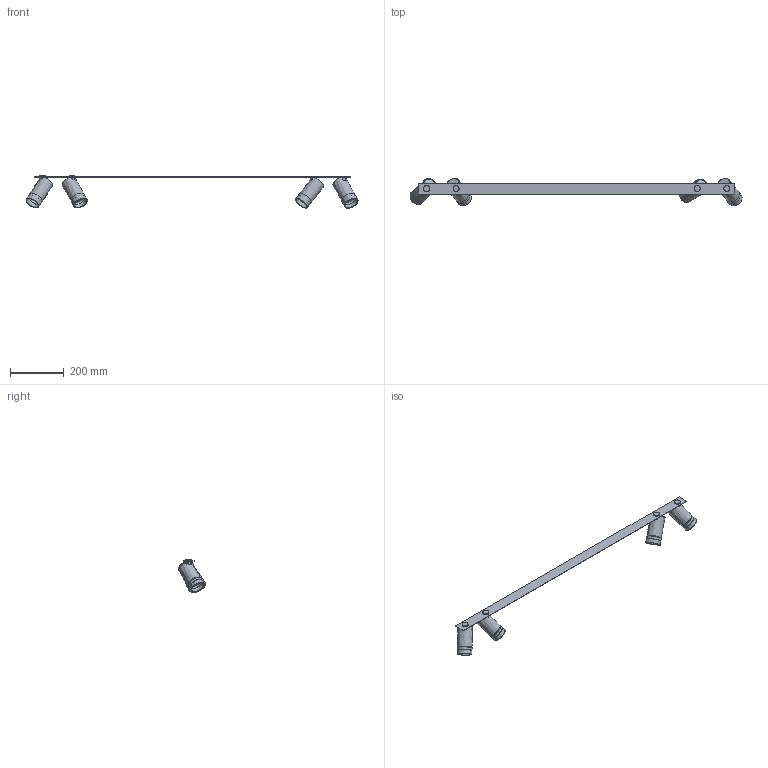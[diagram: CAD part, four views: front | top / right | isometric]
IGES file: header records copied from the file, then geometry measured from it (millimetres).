
Start section: SolidWorks IGES file using NURBS representation for surfaces
Global section: file name: Z:\Modele 3D_WWW\_KOLEKCJE_WWW\MONO\MONO-SURFACE\7686\MONO-SURFACE-IV-GOLD-7686.IGS; native system: SolidWorks 2021; preprocessor: SolidWorks 2021; author: gabriela.tworek; date: 220125.073624; units: millimetre
Bounding box: 1238.37 x 102.15 x 120.74 mm (x, y, z)
Surface area: 315707.1 mm2 (no closed solid volume)
Topology: 0 solids, 0 shells, 229 faces, 1338 edges, 1292 vertices
Faces by surface type: bspline 229
